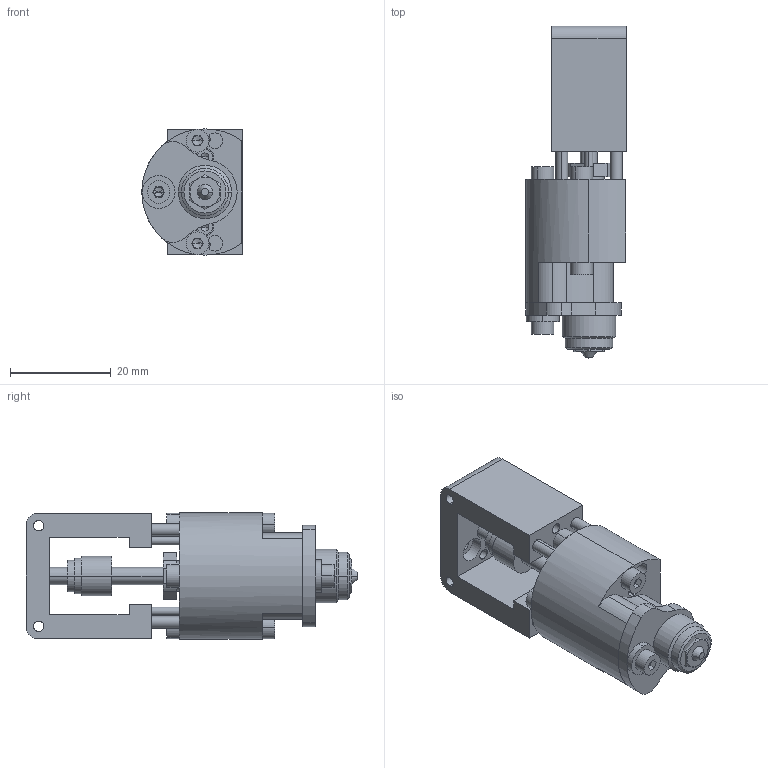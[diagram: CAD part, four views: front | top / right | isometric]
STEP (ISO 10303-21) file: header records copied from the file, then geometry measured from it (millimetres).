
FILE_DESCRIPTION (( 'STEP AP203' ), '1' );
FILE_NAME ('mosquito magnum+.STEP', '2021-05-07T01:31:35', ( '' ), ( '' ), 'SwSTEP 2.0', 'SolidWorks 2021', '' );
FILE_SCHEMA (( 'CONFIG_CONTROL_DESIGN' ));
Length unit declared in the file: millimetre
Products named in the file (9): LOW-FI heat sink magnum+_Magnum+, Prime; LOW-FI nozzle insulator; LOW-FI nozzle_0.8 VANADIUM; LOW-FI M2.5-4 socket head cap screw; LOW-FI heat break 1.75; LOW-FI M1.6-16 socket head cap screw; mosquito magnum+; LOW-FI tubes_standoff; LOW-FI hot block magnum+_MAGNUM+ 1.75
Assembly tree (16 placements, depth 2):
  mosquito magnum+
    LOW-FI hot block magnum+_MAGNUM+ 1.75
    LOW-FI heat sink magnum+_Magnum+, Prime
    LOW-FI heat break 1.75
    LOW-FI nozzle insulator
    LOW-FI tubes_standoff  x4
    LOW-FI nozzle_0.8 VANADIUM
    LOW-FI M1.6-16 socket head cap screw  x2
    LOW-FI M2.5-4 socket head cap screw  x5
Bounding box: 19.95 x 66 x 25.1 mm (x, y, z)
Volume: 14009.4 mm3; surface area: 11447.6 mm2
Topology: 16 solids, 16 shells, 406 faces, 934 edges, 582 vertices
Faces by surface type: cylinder 180, plane 152, cone 74
Entity records: 9931 total; most frequent: DIRECTION 1638, CARTESIAN_POINT 1571, ORIENTED_EDGE 1372, EDGE_CURVE 686, AXIS2_PLACEMENT_3D 656, VERTEX_POINT 445, EDGE_LOOP 383, CIRCLE 332
